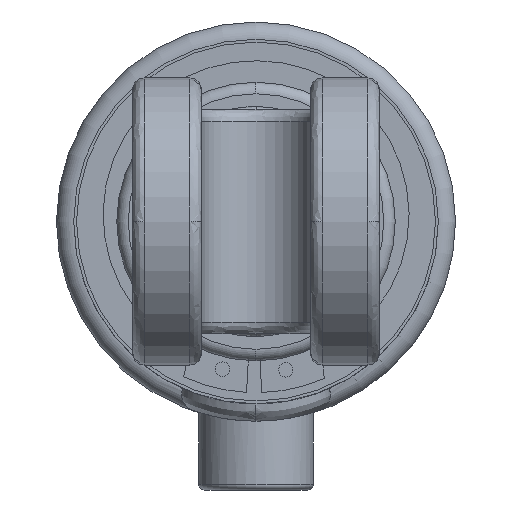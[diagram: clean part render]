
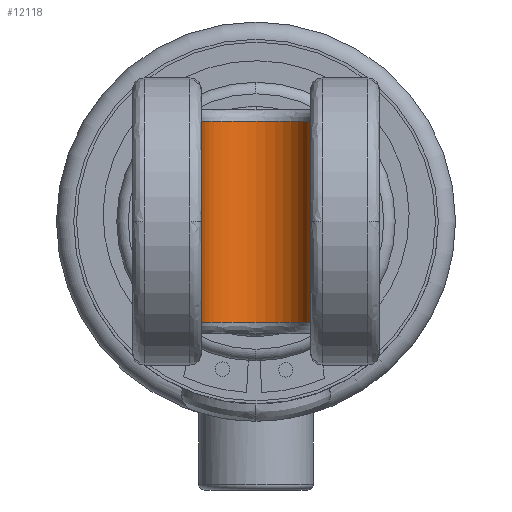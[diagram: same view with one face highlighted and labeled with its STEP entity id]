
A CAD part, left-side view. The second image highlights one B-rep face of the part: STEP entity #12118.
In plain terms, the highlighted cylindrical face has radius 9.5 mm (diameter 19 mm), a partial arc.
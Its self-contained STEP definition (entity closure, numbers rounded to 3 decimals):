
#347 = CARTESIAN_POINT ( 'NONE',  ( 0.293, 1.554, -19.5 ) ) ;
#374 = CARTESIAN_POINT ( 'NONE',  ( 0.293, 1.554, -17.5 ) ) ;
#577 = VERTEX_POINT ( 'NONE', #374 ) ;
#1371 = EDGE_CURVE ( 'NONE', #14821, #9935, #24614, .T. ) ;
#2772 = CARTESIAN_POINT ( 'NONE',  ( 0.293, -7.946, 17.5 ) ) ;
#3039 = ORIENTED_EDGE ( 'NONE', *, *, #1371, .F. ) ;
#3527 = DIRECTION ( 'NONE',  ( 0., 0., 1. ) ) ;
#4035 = CARTESIAN_POINT ( 'NONE',  ( 0.293, -7.946, -19.5 ) ) ;
#4183 = AXIS2_PLACEMENT_3D ( 'NONE', #2772, #16279, #4754 ) ;
#4754 = DIRECTION ( 'NONE',  ( 1., 0., 0. ) ) ;
#5159 = LINE ( 'NONE', #16434, #24856 ) ;
#5717 = LINE ( 'NONE', #347, #20369 ) ;
#6101 = EDGE_CURVE ( 'NONE', #18182, #14821, #5159, .T. ) ;
#6652 = AXIS2_PLACEMENT_3D ( 'NONE', #15123, #3527, #16995 ) ;
#8998 = CIRCLE ( 'NONE', #6652, 9.5 ) ;
#9862 = EDGE_CURVE ( 'NONE', #9935, #577, #5717, .T. ) ;
#9935 = VERTEX_POINT ( 'NONE', #16119 ) ;
#11345 = ORIENTED_EDGE ( 'NONE', *, *, #6101, .F. ) ;
#11889 = DIRECTION ( 'NONE',  ( 0., 0., 1. ) ) ;
#12118 = ADVANCED_FACE ( 'NONE', ( #23009 ), #22421, .F. ) ;
#12568 = ORIENTED_EDGE ( 'NONE', *, *, #9862, .F. ) ;
#14821 = VERTEX_POINT ( 'NONE', #15421 ) ;
#14969 = ORIENTED_EDGE ( 'NONE', *, *, #23059, .F. ) ;
#15123 = CARTESIAN_POINT ( 'NONE',  ( 0.293, -7.946, -17.5 ) ) ;
#15421 = CARTESIAN_POINT ( 'NONE',  ( 0.293, -17.446, 17.5 ) ) ;
#16119 = CARTESIAN_POINT ( 'NONE',  ( 0.293, 1.554, 17.5 ) ) ;
#16279 = DIRECTION ( 'NONE',  ( 0., 0., -1. ) ) ;
#16434 = CARTESIAN_POINT ( 'NONE',  ( 0.293, -17.446, -19.5 ) ) ;
#16995 = DIRECTION ( 'NONE',  ( 1., 0., 0. ) ) ;
#17154 = AXIS2_PLACEMENT_3D ( 'NONE', #4035, #11889, #21284 ) ;
#18182 = VERTEX_POINT ( 'NONE', #23546 ) ;
#19661 = DIRECTION ( 'NONE',  ( 0., 0., -1. ) ) ;
#20146 = DIRECTION ( 'NONE',  ( 0., 0., 1. ) ) ;
#20369 = VECTOR ( 'NONE', #19661, 1000. ) ;
#21284 = DIRECTION ( 'NONE',  ( 1., 0., 0. ) ) ;
#22321 = EDGE_LOOP ( 'NONE', ( #11345, #14969, #12568, #3039 ) ) ;
#22421 = CYLINDRICAL_SURFACE ( 'NONE', #17154, 9.5 ) ;
#23009 = FACE_OUTER_BOUND ( 'NONE', #22321, .T. ) ;
#23059 = EDGE_CURVE ( 'NONE', #577, #18182, #8998, .T. ) ;
#23546 = CARTESIAN_POINT ( 'NONE',  ( 0.293, -17.446, -17.5 ) ) ;
#24614 = CIRCLE ( 'NONE', #4183, 9.5 ) ;
#24856 = VECTOR ( 'NONE', #20146, 1000. ) ;
